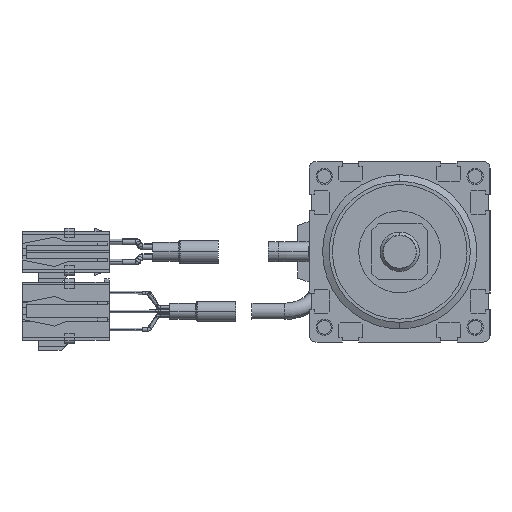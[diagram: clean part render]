
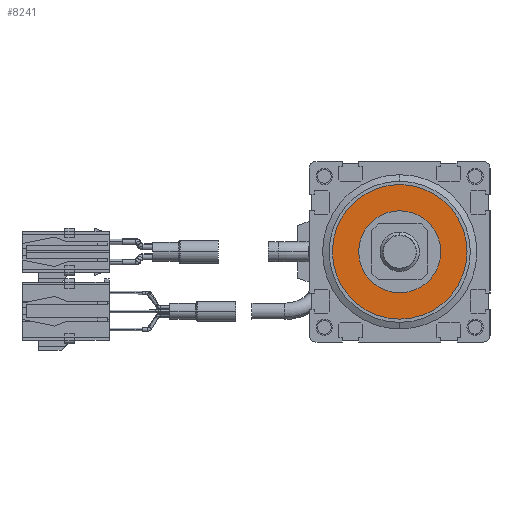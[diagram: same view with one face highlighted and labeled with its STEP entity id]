
A CAD part, left-side view. The second image highlights one B-rep face of the part: STEP entity #8241.
In plain terms, the highlighted planar face has unit normal (-1, 0, 0).
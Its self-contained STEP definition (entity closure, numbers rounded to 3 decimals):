
#1969=CARTESIAN_POINT('',(-291.,0.,0.));
#1970=DIRECTION('',(1.,0.,0.));
#1971=DIRECTION('',(0.,1.,0.));
#1972=AXIS2_PLACEMENT_3D('',#1969,#1970,#1971);
#1974=CARTESIAN_POINT('',(-291.,0.,0.));
#1975=DIRECTION('',(1.,0.,0.));
#1976=DIRECTION('',(0.,-1.,0.));
#1977=AXIS2_PLACEMENT_3D('',#1974,#1975,#1976);
#1979=CARTESIAN_POINT('',(-291.,0.,0.));
#1980=DIRECTION('',(-1.,0.,0.));
#1981=DIRECTION('',(0.,0.,1.));
#1982=AXIS2_PLACEMENT_3D('',#1979,#1980,#1981);
#1984=CARTESIAN_POINT('',(-291.,0.,0.));
#1985=DIRECTION('',(-1.,0.,0.));
#1986=DIRECTION('',(0.,0.,-1.));
#1987=AXIS2_PLACEMENT_3D('',#1984,#1985,#1986);
#4229=CARTESIAN_POINT('',(-291.,20.5,0.));
#4230=VERTEX_POINT('',#4229);
#4231=CARTESIAN_POINT('',(-291.,-20.5,0.));
#4232=VERTEX_POINT('',#4231);
#5363=CARTESIAN_POINT('',(-291.,0.,12.5));
#5364=CARTESIAN_POINT('',(-291.,0.,-12.5));
#5365=VERTEX_POINT('',#5363);
#5366=VERTEX_POINT('',#5364);
#8226=CARTESIAN_POINT('',(-291.,0.,0.));
#8227=DIRECTION('',(1.,0.,0.));
#8228=DIRECTION('',(0.,1.,0.));
#8229=AXIS2_PLACEMENT_3D('',#8226,#8227,#8228);
#8230=PLANE('',#8229);
#8231=ORIENTED_EDGE('',*,*,#8206,.T.);
#8232=ORIENTED_EDGE('',*,*,#8220,.T.);
#8233=EDGE_LOOP('',(#8231,#8232));
#8234=FACE_OUTER_BOUND('',#8233,.F.);
#8236=ORIENTED_EDGE('',*,*,#8235,.T.);
#8238=ORIENTED_EDGE('',*,*,#8237,.T.);
#8239=EDGE_LOOP('',(#8236,#8238));
#8240=FACE_BOUND('',#8239,.F.);
#8241=ADVANCED_FACE('',(#8234,#8240),#8230,.F.);
#1973=CIRCLE('',#1972,20.5);
#1978=CIRCLE('',#1977,20.5);
#1983=CIRCLE('',#1982,12.5);
#1988=CIRCLE('',#1987,12.5);
#8206=EDGE_CURVE('',#4230,#4232,#1973,.T.);
#8220=EDGE_CURVE('',#4232,#4230,#1978,.T.);
#8235=EDGE_CURVE('',#5365,#5366,#1983,.T.);
#8237=EDGE_CURVE('',#5366,#5365,#1988,.T.);
